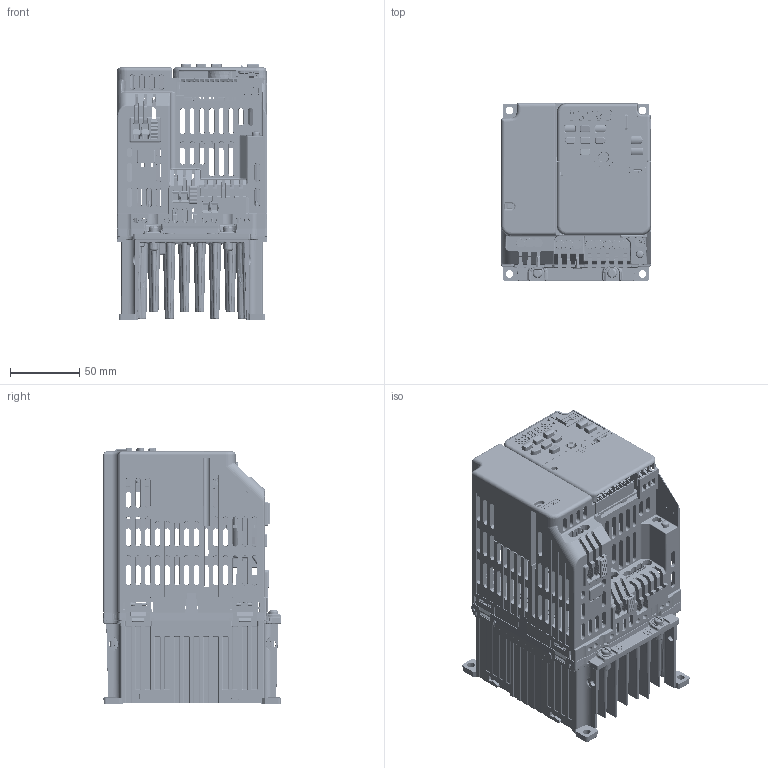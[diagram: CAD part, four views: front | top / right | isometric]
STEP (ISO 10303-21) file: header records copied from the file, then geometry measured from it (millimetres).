
FILE_DESCRIPTION((''),'2;1');
FILE_NAME('GA500_EMC_FRAME_V2-G_ASM','2019-03-08T',('anm'),('YASKAWA ELECTRIC CORCORATION'),'PRO/ENGINEER BY PARAMETRIC TECHNOLOGY CORPORATION, 2015440','PRO/ENGINEER BY PARAMETRIC TECHNOLOGY CORPORATION, 2015440','');
FILE_SCHEMA(('CONFIG_CONTROL_DESIGN'));
Products named in the file (145): LAY_KIPR-GA50_Q_B006_1_1_1_1_1; 400-104-198_1_1_1_1_1; SCAT41279-1_1_1_1_1_1; 400-104-226_1_1_1_1_1; 400-104-297-01B-1_6PCB_AF0_1_1_; MKDS5NHV_5-ZB-6P35_1_1_1_1_1; KTP761813_6PCB_ASM_1_ASM_1_ASM__ASM; 400-104-297-01B-1_5PCB_AF1_1_1_; MKDS5NHV_2-ZB-6P35_1_1_1_1_1; KTP761813_5PCB_ASM_1_ASM_1_ASM__ASM; 400-108-092_ASM_1_ASM_1_ASM_1_A_ASM; VGEM_B1P5_FIL_0824_1_1_1_1_1; VGEM_B1P5_FIL_0824_ASM_1_ASM_1__ASM; NP-3570W_ASM_1_ASM_1_ASM_1_ASM__ASM; 400-104-405_1_1_1_1_1; HSR-M3-5P3_1_1_1_1_1; 400-104-405_ASM_1_ASM_1_ASM_1_A_ASM; MS15_M3X20_1_1_1_1_1; 400-104-023-01F-5_1PCB_1_1_1_1_; 95003-2884_1_1_1_1_1; B12B-PASK-1_1_1_1_1_1; MANIFOLD_SOLID_BREP_724520_1_1_; MANIFOLD_SOLID_BREP_724671_1_1_; MANIFOLD_SOLID_BREP_724822_1_1_; MANIFOLD_SOLID_BREP_724973_1_1_; MANIFOLD_SOLID_BREP_725126_1_1_; MANIFOLD_SOLID_BREP_725277_1_1_; MANIFOLD_SOLID_BREP_725428_1_1_; MANIFOLD_SOLID_BREP_725579_1_1_; MANIFOLD_SOLID_BREP_725730_1_1_; MANIFOLD_SOLID_BREP_725881_1_1_; MANIFOLD_SOLID_BREP_726032_1_1_; 1734753-1_AF1_1_ASM_1_ASM_1_ASM_ASM; MANIFOLD_SOLID_BREP_736844_1_1_; MANIFOLD_SOLID_BREP_737028_1_1_; MANIFOLD_SOLID_BREP_737212_1_1_; MANIFOLD_SOLID_BREP_737396_1_1_; MANIFOLD_SOLID_BREP_737580_1_1_; MANIFOLD_SOLID_BREP_737731_1_1_; MANIFOLD_SOLID_BREP_737882_1_1_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
Assembly tree (147 placements, depth 10):
  GA500_EMC_FRAME_V2-G_ASM
    Q2V_FRAME_V2-G_ASM_1_ASM
      Q2V_FRAME_V2-G_ASM_1_ASM_1_ASM
        00_CIPR-GA50ZB006EBAA_AS-589575_ASM
          00_CIPR-GA50ZB006EBAA_AS-589542_ASM
            00-CIPR-GA50ZB006XXXX_ASM_2_ASM_ASM
              LAY_KIPR-GA50_Q_B006_1_1_1_1_1
              400-104-198_1_1_1_1_1
              SCAT41279-1_1_1_1_1_1  x2
              400-104-226_1_1_1_1_1
              KTP761813_6PCB_ASM_1_ASM_1_ASM__ASM
                400-104-297-01B-1_6PCB_AF0_1_1_
                MKDS5NHV_5-ZB-6P35_1_1_1_1_1
              KTP761813_5PCB_ASM_1_ASM_1_ASM__ASM
                400-104-297-01B-1_5PCB_AF1_1_1_
                MKDS5NHV_2-ZB-6P35_1_1_1_1_1
              400-108-092_ASM_1_ASM_1_ASM_1_A_ASM
              VGEM_B1P5_FIL_0824_ASM_1_ASM_1__ASM
                VGEM_B1P5_FIL_0824_1_1_1_1_1
                MKDS5NHV_2-ZB-6P35_1_1_1_1_1
              NP-3570W_ASM_1_ASM_1_ASM_1_ASM__ASM
              400-104-405_ASM_1_ASM_1_ASM_1_A_ASM
                400-104-405_1_1_1_1_1
                HSR-M3-5P3_1_1_1_1_1
              MS15_M3X20_1_1_1_1_1
              KTC750050-SXXXX_ASM_1_ASM_1_ASM_ASM
                400-104-023-01F-5_1PCB_1_1_1_1_
                95003-2884_1_1_1_1_1
                B12B-PASK-1_1_1_1_1_1
                1734753-1_AF1_1_ASM_1_ASM_1_ASM_ASM
                  MANIFOLD_SOLID_BREP_724520_1_1_
                  MANIFOLD_SOLID_BREP_724671_1_1_
                  MANIFOLD_SOLID_BREP_724822_1_1_
                  MANIFOLD_SOLID_BREP_724973_1_1_
                  MANIFOLD_SOLID_BREP_725126_1_1_
                  MANIFOLD_SOLID_BREP_725277_1_1_
                  MANIFOLD_SOLID_BREP_725428_1_1_
                  MANIFOLD_SOLID_BREP_725579_1_1_
                  MANIFOLD_SOLID_BREP_725730_1_1_
                  MANIFOLD_SOLID_BREP_725881_1_1_
                  MANIFOLD_SOLID_BREP_726032_1_1_
                DHB-PD20-S131N-4P9_AF1_1_ASM_1__ASM
                  MANIFOLD_SOLID_BREP_736844_1_1_
                  MANIFOLD_SOLID_BREP_737028_1_1_
                  MANIFOLD_SOLID_BREP_737212_1_1_
                  MANIFOLD_SOLID_BREP_737396_1_1_
                  MANIFOLD_SOLID_BREP_737580_1_1_
                  MANIFOLD_SOLID_BREP_737731_1_1_
                  MANIFOLD_SOLID_BREP_737882_1_1_
                  MANIFOLD_SOLID_BREP_738033_1_1_
                  MANIFOLD_SOLID_BREP_738184_1_1_
                  MANIFOLD_SOLID_BREP_738335_1_1_
                  MANIFOLD_SOLID_BREP_738486_1_1_
                  MANIFOLD_SOLID_BREP_738637_1_1_
                  MANIFOLD_SOLID_BREP_738788_1_1_
                  MANIFOLD_SOLID_BREP_738939_1_1_
                  MANIFOLD_SOLID_BREP_739090_1_1_
                  MANIFOLD_SOLID_BREP_739241_1_1_
                  MANIFOLD_SOLID_BREP_739392_1_1_
                  MANIFOLD_SOLID_BREP_739543_1_1_
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Bounding box: 108.58 x 128.29 x 185.25 mm (x, y, z)
Volume: 237361.9 mm3; surface area: 413400.7 mm2
Topology: 119 solids, 125 shells, 15517 faces, 42878 edges, 27601 vertices
Faces by surface type: plane 9332, cylinder 3344, cone 1048, bspline 970, torus 548, sphere 274, extrusion 1
Entity records: 541769 total; most frequent: CARTESIAN_POINT 155622, ORIENTED_EDGE 84014, DIRECTION 74239, EDGE_CURVE 42023, VECTOR 28751, LINE 28750, VERTEX_POINT 27233, AXIS2_PLACEMENT_3D 22744
